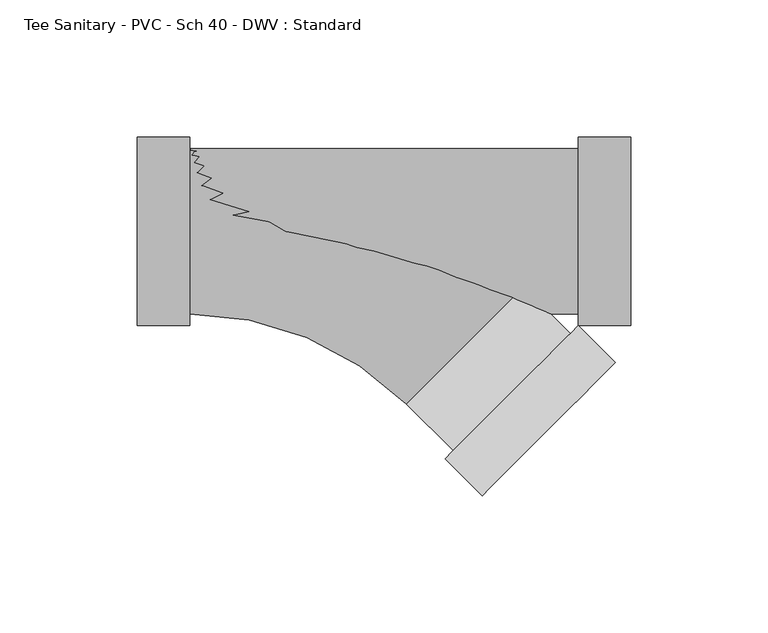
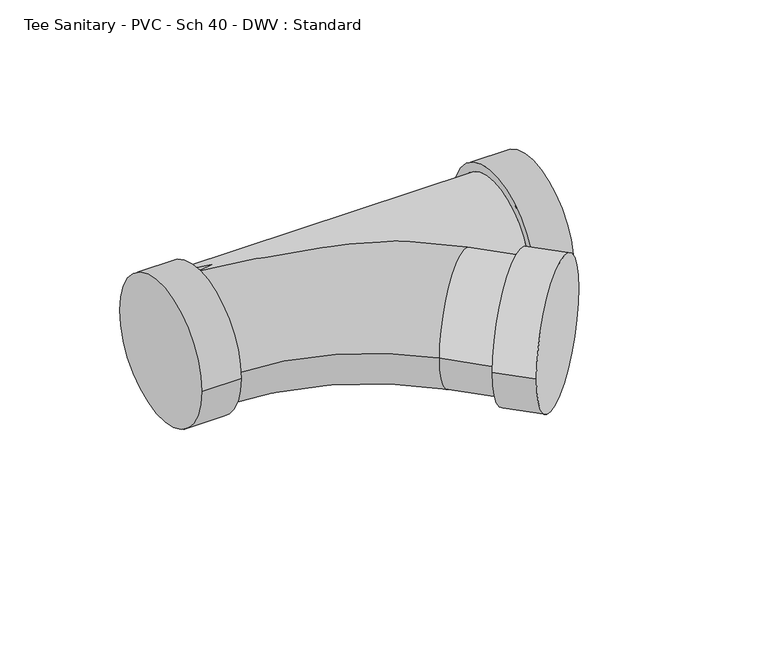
"""IFC4 building model written with IfcOpenShell, lengths in millimetres: pipe fitting geometry, Tee Sanitary - PVC - Sch 40 - DWV : Standard."""

import ifcopenshell
import ifcopenshell.guid

model = None  # the IFC model being written
_history = None  # IfcOwnerHistory: only IFC2X3 demands one
_inside = {}  # id of a spatial element -> (the spatial element, [elements in it])
_under = {}  # id of a project, library or spatial element -> (it, [spatial elements below it])
_declared = {}  # id of a project -> (the project, [libraries it declares])
_typed = {}  # id of a type object -> (the type object, [elements of that type])
_made_of = {}  # id of a material, layer set ... -> (it, [elements and type objects made of it])


def new_model(schema):
    """Start an empty IFC model of exactly this schema.

    Asked for "IFC4X3", IfcOpenShell would pick the latest addendum, in which some entities
    have other attributes; the version numbers below select the first issue.
    IFC2X3 requires an IfcOwnerHistory on every rooted entity: one is made here for all.
    """
    global model, _history
    if schema == "IFC4X3":
        model = ifcopenshell.file(schema_version=(4, 3, 0, 0))
    else:
        model = ifcopenshell.file(schema=schema)
    _inside.clear()
    _under.clear()
    _declared.clear()
    _typed.clear()
    _made_of.clear()
    _history = None
    if model.schema == "IFC2X3":
        org = make("IfcOrganization", Name="unknown")
        user = make(
            "IfcPersonAndOrganization",
            ThePerson=make("IfcPerson", FamilyName="unknown"),
            TheOrganization=org,
        )
        app = make(
            "IfcApplication",
            ApplicationDeveloper=org,
            Version="unknown",
            ApplicationFullName="unknown",
            ApplicationIdentifier="unknown",
        )
        _history = make(
            "IfcOwnerHistory",
            OwningUser=user,
            OwningApplication=app,
            ChangeAction="ADDED",
            CreationDate=0,
        )
    return model


def make(cls, **values):
    """One entity of the class cls with the attributes given. An attribute that is None is left unset."""
    return model.create_entity(
        cls, **{name: value for name, value in values.items() if value is not None}
    )


def rooted(cls, **values):
    """An entity with a GlobalId (a new one), such as an element, a storey or a relation."""
    return make(cls, GlobalId=ifcopenshell.guid.new(), OwnerHistory=_history, **values)


def si_unit(unit_type, name, prefix=None):
    """IfcSIUnit, for example si_unit("LENGTHUNIT", "METRE", prefix="MILLI")."""
    return make("IfcSIUnit", UnitType=unit_type, Prefix=prefix, Name=name)


def assignment(units):
    """IfcUnitAssignment: the units of a project."""
    return None if units is None else make("IfcUnitAssignment", Units=units)


def point(xyz):
    """IfcCartesianPoint."""
    return None if xyz is None else make("IfcCartesianPoint", Coordinates=xyz)


def direction(xyz):
    """IfcDirection."""
    return None if xyz is None else make("IfcDirection", DirectionRatios=xyz)


def frame(location, z_axis=None, x_axis=None):
    """IfcAxis2Placement3D, a coordinate frame: its origin and axes. An axis left out is left unset."""
    return make(
        "IfcAxis2Placement3D",
        Location=point(location),
        Axis=direction(z_axis),
        RefDirection=direction(x_axis),
    )


def origin():
    """The frame at (0, 0, 0) with its axes left unset."""
    return frame((0.0, 0.0, 0.0))


def place(relative_to, where):
    """IfcLocalPlacement: puts the frame where relative to a parent placement (None: the world)."""
    return make(
        "IfcLocalPlacement", PlacementRelTo=relative_to, RelativePlacement=where
    )


def context(
    kind, dimensions, precision=None, world=None, true_north=None, identifier=None
):
    """IfcGeometricRepresentationContext, for example the 3D "Model" context."""
    return make(
        "IfcGeometricRepresentationContext",
        ContextIdentifier=identifier,
        ContextType=kind,
        CoordinateSpaceDimension=dimensions,
        Precision=precision,
        WorldCoordinateSystem=world,
        TrueNorth=true_north,
    )


def project(units=None, contexts=None):
    """IfcProject with its units and contexts."""
    return rooted(
        "IfcProject",
        Name="project",
        RepresentationContexts=contexts,
        UnitsInContext=assignment(units),
    )


def spatial(cls, under=None, at=None, **own):
    """A site, building, storey or space (cls), placed at a placement, below another one or the project."""
    s = rooted(cls, ObjectPlacement=at, **own)
    if under is not None:
        _under.setdefault(under.id(), (under, []))[1].append(s)
    return s


def circle_curve(where, radius):
    """IfcCircle in the frame where."""
    return make("IfcCircle", Position=where, Radius=radius)


def ellipse_curve(where, semi_axis1, semi_axis2):
    """IfcEllipse in the frame where."""
    return make(
        "IfcEllipse", Position=where, SemiAxis1=semi_axis1, SemiAxis2=semi_axis2
    )


def trimmed(basis, trim1, trim2, sense, master):
    """IfcTrimmedCurve: the piece of a basis curve between two trims."""
    return make(
        "IfcTrimmedCurve",
        BasisCurve=basis,
        Trim1=trim1,
        Trim2=trim2,
        SenseAgreement=sense,
        MasterRepresentation=master,
    )


def shape(context_of_items, identifier, shape_type, items):
    """IfcShapeRepresentation: the items that make up one representation, for example the "Body"."""
    return make(
        "IfcShapeRepresentation",
        ContextOfItems=context_of_items,
        RepresentationIdentifier=identifier,
        RepresentationType=shape_type,
        Items=items,
    )


def source(mapping_origin, context_of_items, identifier, shape_type, items):
    """IfcRepresentationMap: a shape defined once, which mapped items show again and again."""
    return make(
        "IfcRepresentationMap",
        MappingOrigin=mapping_origin,
        MappedRepresentation=shape(context_of_items, identifier, shape_type, items),
    )


def transform(
    local_origin,
    x_axis=None,
    y_axis=None,
    z_axis=None,
    scale=None,
    scale2=None,
    scale3=None,
    uniform=True,
):
    """IfcCartesianTransformationOperator3D, or its non-uniform kind. x_axis, y_axis, z_axis: its Axis1, 2, 3."""
    if uniform:
        return make(
            "IfcCartesianTransformationOperator3D",
            Axis1=direction(x_axis),
            Axis2=direction(y_axis),
            LocalOrigin=point(local_origin),
            Scale=scale,
            Axis3=direction(z_axis),
        )
    return make(
        "IfcCartesianTransformationOperator3DnonUniform",
        Axis1=direction(x_axis),
        Axis2=direction(y_axis),
        LocalOrigin=point(local_origin),
        Scale=scale,
        Axis3=direction(z_axis),
        Scale2=scale2,
        Scale3=scale3,
    )


def mapped(mapping_source, mapping_target):
    """IfcMappedItem: shows the shape of a source again, moved by a transform."""
    return make(
        "IfcMappedItem", MappingSource=mapping_source, MappingTarget=mapping_target
    )


def made_of(thing, what):
    """Note that an element or type object is made of a material, layer set ...; save() writes the relation."""
    if what is not None:
        _made_of.setdefault(what.id(), (what, []))[1].append(thing)
    return thing


def element(
    cls,
    number,
    at=None,
    inside=None,
    cuts=None,
    type_object=None,
    material=None,
    context=None,
    identifier="Body",
    shape_type=None,
    held_by="IfcProductDefinitionShape",
    body=None,
    shapes=None,
    **own,
):
    """One element of the class cls, such as IfcWall. Its Tag is "e" and its number.

    at: its placement. inside: the storey or other place that contains it. cuts: it is an
    opening in that element (IfcRelVoidsElement). A single representation is given by context,
    identifier, shape_type and body (its items); several are given by shapes. held_by: the class
    of the entity that holds the representations. save() writes the other relations.
    """
    e = rooted(cls, Tag="e%d" % number, ObjectPlacement=at, **own)
    if body is not None:
        shapes = [shape(context, identifier, shape_type, body)]
    if shapes is not None:
        e.Representation = make(held_by, Representations=shapes)
    if inside is not None:
        _inside.setdefault(inside.id(), (inside, []))[1].append(e)
    if cuts is not None:
        rooted(
            "IfcRelVoidsElement", RelatingBuildingElement=cuts, RelatedOpeningElement=e
        )
    if type_object is not None:
        _typed.setdefault(type_object.id(), (type_object, []))[1].append(e)
    return made_of(e, material)


def aggregate(whole, parts):
    """IfcRelAggregates: a whole, such as a stair, and the parts it consists of."""
    return rooted("IfcRelAggregates", RelatingObject=whole, RelatedObjects=parts)


def save(model, path):
    """Write the relations noted so far, then the file.

    IfcRelAggregates (storeys below a building ...), IfcRelContainedInSpatialStructure (elements
    in a storey), IfcRelDefinesByType, IfcRelAssociatesMaterial and IfcRelDeclares: one each for
    every whole, place, type object, material and project.
    """
    for whole, parts in _under.values():
        aggregate(whole, parts)
    for where, things in _inside.values():
        rooted(
            "IfcRelContainedInSpatialStructure",
            RelatedElements=things,
            RelatingStructure=where,
        )
    for kind, things in _typed.values():
        rooted("IfcRelDefinesByType", RelatedObjects=things, RelatingType=kind)
    for what, things in _made_of.values():
        rooted("IfcRelAssociatesMaterial", RelatedObjects=things, RelatingMaterial=what)
    for by, libraries in _declared.values():
        rooted("IfcRelDeclares", RelatingContext=by, RelatedDefinitions=libraries)
    model.write(path)


def plane_surface(at):
    """IfcPlane: the flat surface through the origin of the frame at, square to its z axis."""
    return make("IfcPlane", Position=at)


def cylinder_surface(at, radius):
    """IfcCylindricalSurface: all points at the distance radius from the z axis of the frame at."""
    return make("IfcCylindricalSurface", Position=at, Radius=radius)


def revolved_surface(curve, axis_point, axis_direction):
    """IfcSurfaceOfRevolution: the curve turned about the line through axis_point along axis_direction."""
    return make(
        "IfcSurfaceOfRevolution",
        SweptCurve=make("IfcArbitraryOpenProfileDef", ProfileType="CURVE", Curve=curve),
        AxisPosition=make("IfcAxis1Placement", Location=point(axis_point), Axis=direction(axis_direction)),
    )


def advanced_brep(points, edges, surfaces, faces):
    """IfcAdvancedBrep: a solid bounded by faces that lie on surfaces and meet in shared edges.

    An edge is (start, end): straight between two places in points (the first is 0);
    or (start, end, curve); or (start, end, curve, False) where it runs against its curve.
    A face is (place in surfaces, loops), or (place, loops, False) where it looks against
    its surface's normal. A loop lists edges by number (the first is 1), with a minus sign
    where the edge is run from its end to its start. The first loop is the outer one.
    """
    corners = [point(p) for p in points]
    vertices = [make("IfcVertexPoint", VertexGeometry=c) for c in corners]
    made = []
    for start, end, *more in edges:
        made.append(
            make(
                "IfcEdgeCurve",
                EdgeStart=vertices[start],
                EdgeEnd=vertices[end],
                EdgeGeometry=more[0] if more else make("IfcPolyline", Points=[corners[start], corners[end]]),
                SameSense=more[1] if len(more) > 1 else True,
            )
        )
    hull = []
    for where, loops, *sense in faces:
        bounds = []
        for j, loop in enumerate(loops):
            ring = [make("IfcOrientedEdge", EdgeElement=made[abs(k) - 1], Orientation=k > 0) for k in loop]
            bounds.append(
                make(
                    "IfcFaceOuterBound" if j == 0 else "IfcFaceBound",
                    Bound=make("IfcEdgeLoop", EdgeList=ring),
                    Orientation=True,
                )
            )
        hull.append(make("IfcAdvancedFace", Bounds=bounds, FaceSurface=surfaces[where], SameSense=sense[0] if sense else True))
    return make("IfcAdvancedBrep", Outer=make("IfcClosedShell", CfsFaces=hull))


def tee_sanitary_pvc_sch_40_dwv_standard_d4702521(model_context):
    return source(origin(), model_context, "Body", "AdvancedBrep", [
        advanced_brep(
        [(-58.7502, -30.1625, 0.0), (-58.7502, 30.1625, 0.0), (20.2145565, -62.8707731, 0.0), (62.8707731, -20.2145565, 0.0), (96.3150883, -47.7857842, 0.0), (47.7857842, -96.3150883, 0.0), (82.8447041, -34.3154, 0.0), (34.3154, -82.8447041, 0.0), (79.9081603, -37.2519438, 0.0), (37.2519438, -79.9081603, 0.0)],
        [
            (0, 1, circle_curve(frame((-58.7502, 0.0, 0.0), z_axis=(-1.0, 0.0, 0.0), x_axis=(0.0, 1.0, 0.0)), 30.1625)),
            (1, 0, circle_curve(frame((-58.7502, 0.0, 0.0), z_axis=(-1.0, 0.0, 0.0), x_axis=(0.0, 1.0, 0.0)), 30.1625)),
            (0, 2, circle_curve(frame((-58.7502, -141.8355296, 0.0), z_axis=(0.0, 0.0, -1.0), x_axis=(0.0, 1.0, 0.0)), 111.6730296)),
            (2, 3, circle_curve(frame((41.5426648, -41.5426648, 0.0), z_axis=(-0.7071067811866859, 0.7071067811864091, 0.0), x_axis=(0.7071067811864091, 0.7071067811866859, 0.0)), 30.1625)),
            (3, 1, circle_curve(frame((-58.7502, -141.8355296, 0.0), z_axis=(0.0, 0.0, 1.0), x_axis=(0.0, 1.0, 0.0)), 171.9980296)),
            (3, 2, circle_curve(frame((41.5426648, -41.5426648, 0.0), z_axis=(-0.7071067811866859, 0.7071067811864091, 0.0), x_axis=(0.7071067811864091, 0.7071067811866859, 0.0)), 30.1625)),
            (4, 5, circle_curve(frame((72.0504362, -72.0504362, 0.0), z_axis=(0.7071067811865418, -0.7071067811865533, 0.0), x_axis=(-0.7071067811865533, -0.7071067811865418, 0.0)), 34.3154)),
            (5, 4, circle_curve(frame((72.0504362, -72.0504362, 0.0), z_axis=(0.7071067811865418, -0.7071067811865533, 0.0), x_axis=(-0.7071067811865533, -0.7071067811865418, 0.0)), 34.3154)),
            (6, 7, circle_curve(frame((58.580052, -58.580052, 0.0), z_axis=(-0.7071067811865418, 0.7071067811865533, 0.0), x_axis=(-0.7071067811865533, -0.7071067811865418, 0.0)), 34.3154)),
            (7, 6, circle_curve(frame((58.580052, -58.580052, 0.0), z_axis=(-0.7071067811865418, 0.7071067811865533, 0.0), x_axis=(-0.7071067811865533, -0.7071067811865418, 0.0)), 34.3154)),
            (8, 9, circle_curve(frame((58.580052, -58.580052, 0.0), z_axis=(0.7071067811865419, -0.7071067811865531, 0.0), x_axis=(-0.7071067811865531, -0.7071067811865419, 0.0)), 30.1625)),
            (9, 8, circle_curve(frame((58.580052, -58.580052, 0.0), z_axis=(0.7071067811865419, -0.7071067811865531, 0.0), x_axis=(-0.7071067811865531, -0.7071067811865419, 0.0)), 30.1625)),
            (4, 6),
            (7, 5),
            (2, 9),
            (8, 3),
        ],
        [
            plane_surface(frame((-58.7502, 0.0, 0.0), z_axis=(-1.0, 0.0, 0.0), x_axis=(0.0, 0.0, 1.0))),
            revolved_surface(trimmed(ellipse_curve(frame((-58.7502, 0.0, 0.0), z_axis=(-1.0, 0.0, 0.0), x_axis=(0.0, 1.0, 0.0)), 30.1625, 30.1625), [point((-58.7502, -30.1625, 0.0))], [point((-58.7502, 30.1625, 0.0))], True, "CARTESIAN"), (-58.7502, -141.8355296, 0.0), (0.0, 0.0, -1.0)),
            revolved_surface(trimmed(ellipse_curve(frame((-58.7502, 0.0, 0.0), z_axis=(-1.0, 0.0, 0.0), x_axis=(0.0, 1.0, 0.0)), 30.1625, 30.1625), [point((-58.7502, 30.1625, 0.0))], [point((-58.7502, -30.1625, 0.0))], True, "CARTESIAN"), (-58.7502, -141.8355296, 0.0), (0.0, 0.0, -1.0)),
            plane_surface(frame((72.0504362, -72.0504362, 0.0), z_axis=(0.7071067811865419, -0.7071067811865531, 0.0), x_axis=(0.0, 0.0, 1.0))),
            plane_surface(frame((58.580052, -58.580052, 0.0), z_axis=(-0.7071067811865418, 0.7071067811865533, 0.0), x_axis=(0.0, 0.0, 1.0))),
            cylinder_surface(frame((72.0504362, -72.0504362, 0.0), z_axis=(0.7071067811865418, -0.7071067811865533, 0.0), x_axis=(-0.7071067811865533, -0.7071067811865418, 0.0)), 34.3154),
            cylinder_surface(frame((72.0504362, -72.0504362, 0.0), z_axis=(0.7071067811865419, -0.7071067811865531, 0.0), x_axis=(-0.7071067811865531, -0.7071067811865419, 0.0)), 30.1625),
        ],
        [
            (0, [[1, 2]]),
            (1, [[-1, 3, 4, 5]]),
            (2, [[-2, -5, 6, -3]]),
            (3, [[7, 8]]),
            (4, [[9, 10], [11, 12]]),
            (5, [[-7, 13, -10, 14]]),
            (5, [[-8, -14, -9, -13]]),
            (6, [[-4, 15, -11, 16]]),
            (6, [[-6, -16, -12, -15]]),
        ],
    ),
        advanced_brep(
        [(-58.7502, -30.1625, 0.0), (82.8447041, -30.1625, 0.0), (82.8447041, 30.1625, 0.0), (-58.7502, 30.1625, 0.0), (82.8447041, -34.3154, 0.0), (82.8447041, 34.3154, 0.0), (101.8947041, -34.3154, 0.0), (101.8947041, 34.3154, 0.0), (-77.8002, -34.3154, 0.0), (-77.8002, 34.3154, 0.0), (-58.7502, -34.3154, 0.0), (-58.7502, 34.3154, 0.0)],
        [
            (0, 1),
            (1, 2, circle_curve(frame((82.8447041, 0.0, 0.0), z_axis=(-1.0, 0.0, 0.0), x_axis=(0.0, 1.0, 0.0)), 30.1625)),
            (2, 3),
            (3, 0, circle_curve(frame((-58.7502, 0.0, 0.0), z_axis=(1.0, 0.0, 0.0), x_axis=(0.0, 1.0, 0.0)), 30.1625)),
            (0, 3, circle_curve(frame((-58.7502, 0.0, 0.0), z_axis=(1.0, 0.0, 0.0), x_axis=(0.0, 1.0, 0.0)), 30.1625)),
            (2, 1, circle_curve(frame((82.8447041, 0.0, 0.0), z_axis=(-1.0, 0.0, 0.0), x_axis=(0.0, 1.0, 0.0)), 30.1625)),
            (4, 5, circle_curve(frame((82.8447041, 0.0, 0.0), z_axis=(-1.0, 0.0, 0.0), x_axis=(0.0, 1.0, 0.0)), 34.3154)),
            (5, 4, circle_curve(frame((82.8447041, 0.0, 0.0), z_axis=(-1.0, 0.0, 0.0), x_axis=(0.0, 1.0, 0.0)), 34.3154)),
            (6, 7, circle_curve(frame((101.8947041, 0.0, 0.0), z_axis=(1.0, 0.0, 0.0), x_axis=(0.0, 1.0, 0.0)), 34.3154)),
            (7, 6, circle_curve(frame((101.8947041, 0.0, 0.0), z_axis=(1.0, 0.0, 0.0), x_axis=(0.0, 1.0, 0.0)), 34.3154)),
            (4, 6),
            (7, 5),
            (8, 9, circle_curve(frame((-77.8002, 0.0, 0.0), z_axis=(-1.0, 0.0, 0.0), x_axis=(0.0, 1.0, 0.0)), 34.3154)),
            (9, 8, circle_curve(frame((-77.8002, 0.0, 0.0), z_axis=(-1.0, 0.0, 0.0), x_axis=(0.0, 1.0, 0.0)), 34.3154)),
            (10, 11, circle_curve(frame((-58.7502, 0.0, 0.0), z_axis=(1.0, 0.0, 0.0), x_axis=(0.0, 1.0, 0.0)), 34.3154)),
            (11, 10, circle_curve(frame((-58.7502, 0.0, 0.0), z_axis=(1.0, 0.0, 0.0), x_axis=(0.0, 1.0, 0.0)), 34.3154)),
            (8, 10),
            (11, 9),
        ],
        [
            cylinder_surface(frame((-58.7502, 0.0, 0.0), z_axis=(-1.0, 0.0, 0.0), x_axis=(0.0, 1.0, 0.0)), 30.1625),
            plane_surface(frame((82.8447041, 0.0, 0.0), z_axis=(-1.0, 0.0, 0.0), x_axis=(0.0, 0.0, 1.0))),
            plane_surface(frame((101.8947041, 0.0, 0.0), z_axis=(1.0, 0.0, 0.0), x_axis=(0.0, 0.0, 1.0))),
            cylinder_surface(frame((82.8447041, 0.0, 0.0), z_axis=(-1.0, 0.0, 0.0), x_axis=(0.0, 1.0, 0.0)), 34.3154),
            plane_surface(frame((-77.8002, 0.0, 0.0), z_axis=(-1.0, 0.0, 0.0), x_axis=(0.0, 0.0, 1.0))),
            plane_surface(frame((-58.7502, 0.0, 0.0), z_axis=(1.0, 0.0, 0.0), x_axis=(0.0, 0.0, 1.0))),
            cylinder_surface(frame((-77.8002, 0.0, 0.0), z_axis=(-1.0, 0.0, 0.0), x_axis=(0.0, 1.0, 0.0)), 34.3154),
        ],
        [
            (0, [[1, 2, 3, 4]]),
            (0, [[-1, 5, -3, 6]]),
            (1, [[7, 8], [-2, -6]]),
            (2, [[9, 10]]),
            (3, [[-7, 11, -10, 12]]),
            (3, [[-8, -12, -9, -11]]),
            (4, [[13, 14]]),
            (5, [[15, 16], [-4, -5]]),
            (6, [[-13, 17, -16, 18]]),
            (6, [[-14, -18, -15, -17]]),
        ],
    ),
    ])


if __name__ == "__main__":
    model = new_model("IFC4")
    model_context = context("Model", 3, world=origin())
    ifc_project = project(units=[si_unit("LENGTHUNIT", "METRE", prefix="MILLI")], contexts=[model_context])
    site = spatial("IfcSite", under=ifc_project)
    building = spatial("IfcBuilding", under=site)
    placement = place(None, origin())
    tee_sanitary_pvc_sch_40_dwv_standard_shape = tee_sanitary_pvc_sch_40_dwv_standard_d4702521(model_context)
    element("IfcPipeFitting", 1, ObjectType="Tee Sanitary - PVC - Sch 40 - DWV : Standard", at=placement, inside=building, context=model_context, shape_type="MappedRepresentation", body=[
        mapped(tee_sanitary_pvc_sch_40_dwv_standard_shape, transform((0.0, 0.0, 0.0), x_axis=(1.0, 0.0, 0.0), y_axis=(0.0, 1.0, 0.0), z_axis=(0.0, 0.0, 1.0))),
    ])
    save(model, "model.ifc")
